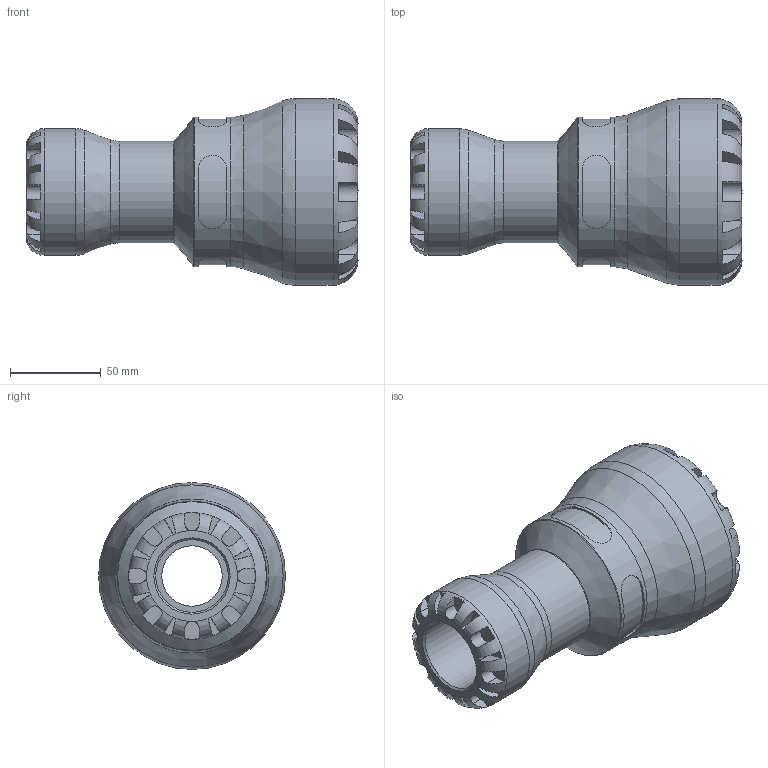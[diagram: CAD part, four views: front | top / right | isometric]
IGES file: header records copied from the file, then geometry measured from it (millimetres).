
Global section: file name: 101100063040_191100063040.ipt; native system: Autodesk Inventor 2015; preprocessor: unknown; author: KIM; date: 20190627.094243; units: millimetre
Bounding box: 183 x 103 x 103 mm (x, y, z)
Volume: 495006.5 mm3; surface area: 89179.5 mm2
Topology: 1 solids, 1 shells, 172 faces, 451 edges, 286 vertices
Faces by surface type: plane 108, revolution 37, cylinder 24, cone 3
Full cylindrical faces by diameter (mm): 56 x1, 70 x1, 82.4 x1, 103 x1
